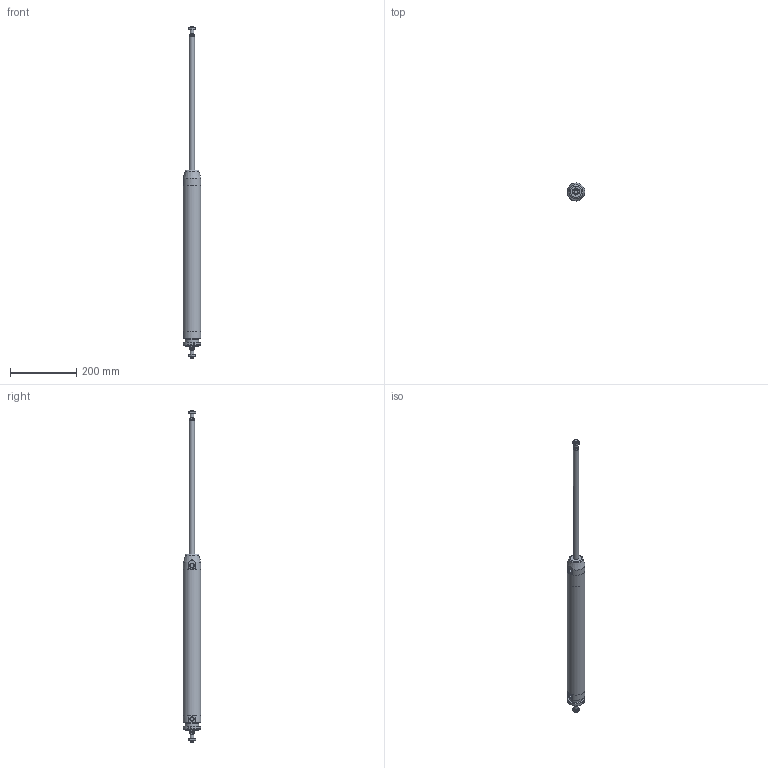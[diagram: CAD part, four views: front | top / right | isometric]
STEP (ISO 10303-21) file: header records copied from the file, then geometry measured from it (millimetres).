
FILE_DESCRIPTION(/* description */ (''),/* implementation_level */ '2;1');
FILE_NAME(/* name */ 'I:\Area Tecnica\Documenti\A-Manieri\_Inventor\12X\12X#T_###_####_#_#\12XCT_050_0400_#_#.stp',/* time_stamp */ '2015-05-13T08:46:37+02:00',/* author */ ('maniean1'),/* organization */ ('Pneumax S.p.A.'),/* preprocessor_version */ 'ST-DEVELOPER v15.2',/* originating_system */ 'Autodesk Inventor 2014',/* authorisation */ '');
FILE_SCHEMA (('AUTOMOTIVE_DESIGN { 1 0 10303 214 3 1 1 }'));
Length unit declared in the file: millimetre
Products named in the file (7): C1250_619-0400; 12X50_604; SP12X50_0400; 12X_50_11; 12X50_613; G12X_050_05; 12XCT_050_0400_#_#
Bounding box: 54 x 54 x 1002 mm (x, y, z)
Volume: 575297 mm3; surface area: 235303.9 mm2
Topology: 7 solids, 7 shells, 107 faces, 238 edges, 152 vertices
Faces by surface type: plane 54, cylinder 26, cone 26, torus 1
Full cylindrical faces by diameter (mm): 10.2 x2, 11.4 x2, 12 x4, 14 x2, 15.6 x2, 16 x2, 38.2 x1, 40 x3, 50 x2, 54 x3
Entity records: 2546 total; most frequent: CARTESIAN_POINT 474, DIRECTION 433, ORIENTED_EDGE 338, AXIS2_PLACEMENT_3D 187, EDGE_CURVE 169, EDGE_LOOP 150, VERTEX_POINT 129, ADVANCED_FACE 96
